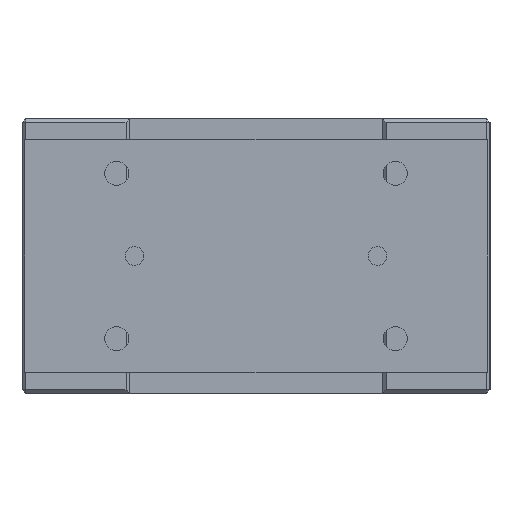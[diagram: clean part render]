
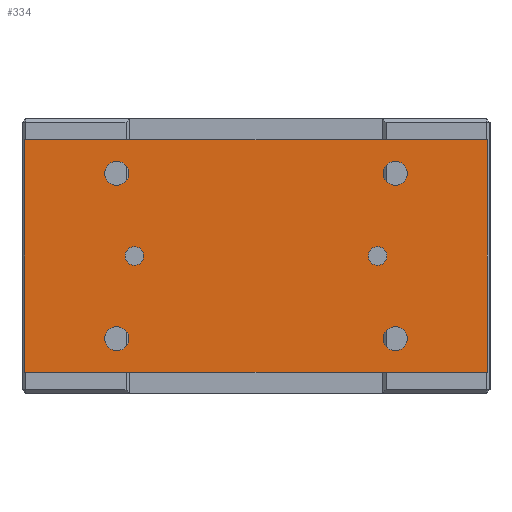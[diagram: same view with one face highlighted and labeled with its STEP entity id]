
A CAD part, left-side view. The second image highlights one B-rep face of the part: STEP entity #334.
In plain terms, the highlighted planar face has unit normal (-1, 0, 0).
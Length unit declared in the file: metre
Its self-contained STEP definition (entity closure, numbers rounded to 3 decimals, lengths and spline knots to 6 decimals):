
#334 = ADVANCED_FACE( '', ( #878, #879, #880, #881, #882, #883, #884 ), #885, .T. );
#878 = FACE_BOUND( '', #1772, .T. );
#879 = FACE_BOUND( '', #1773, .T. );
#880 = FACE_BOUND( '', #1774, .T. );
#881 = FACE_BOUND( '', #1775, .T. );
#882 = FACE_BOUND( '', #1776, .T. );
#883 = FACE_BOUND( '', #1777, .T. );
#884 = FACE_OUTER_BOUND( '', #1778, .T. );
#885 = PLANE( '', #1779 );
#1772 = EDGE_LOOP( '', ( #2775 ) );
#1773 = EDGE_LOOP( '', ( #2776 ) );
#1774 = EDGE_LOOP( '', ( #2777 ) );
#1775 = EDGE_LOOP( '', ( #2778 ) );
#1776 = EDGE_LOOP( '', ( #2779 ) );
#1777 = EDGE_LOOP( '', ( #2780 ) );
#1778 = EDGE_LOOP( '', ( #2781, #2782, #2783, #2784 ) );
#1779 = AXIS2_PLACEMENT_3D( '', #2785, #2786, #2787 );
#2775 = ORIENTED_EDGE( '', *, *, #4426, .F. );
#2776 = ORIENTED_EDGE( '', *, *, #4427, .T. );
#2777 = ORIENTED_EDGE( '', *, *, #4428, .F. );
#2778 = ORIENTED_EDGE( '', *, *, #4429, .F. );
#2779 = ORIENTED_EDGE( '', *, *, #4430, .F. );
#2780 = ORIENTED_EDGE( '', *, *, #4431, .F. );
#2781 = ORIENTED_EDGE( '', *, *, #4432, .T. );
#2782 = ORIENTED_EDGE( '', *, *, #4433, .T. );
#2783 = ORIENTED_EDGE( '', *, *, #4434, .T. );
#2784 = ORIENTED_EDGE( '', *, *, #4435, .T. );
#2785 = CARTESIAN_POINT( '', ( -0.143, -0.1245, -0.0115 ) );
#2786 = DIRECTION( '', ( -1., 0., 0. ) );
#2787 = DIRECTION( '', ( 0., 0., 1. ) );
#4426 = EDGE_CURVE( '', #5160, #5160, #5161, .T. );
#4427 = EDGE_CURVE( '', #5162, #5162, #5163, .T. );
#4428 = EDGE_CURVE( '', #5164, #5164, #5165, .T. );
#4429 = EDGE_CURVE( '', #5166, #5166, #5167, .T. );
#4430 = EDGE_CURVE( '', #5168, #5168, #5169, .T. );
#4431 = EDGE_CURVE( '', #5170, #5170, #5171, .T. );
#4432 = EDGE_CURVE( '', #5172, #5173, #5174, .T. );
#4433 = EDGE_CURVE( '', #5173, #5175, #5176, .T. );
#4434 = EDGE_CURVE( '', #5175, #5177, #5178, .T. );
#4435 = EDGE_CURVE( '', #5177, #5172, #5179, .T. );
#5160 = VERTEX_POINT( '', #6193 );
#5161 = CIRCLE( '', #6194, 0.005 );
#5162 = VERTEX_POINT( '', #6195 );
#5163 = CIRCLE( '', #6196, 0.005 );
#5164 = VERTEX_POINT( '', #6197 );
#5165 = CIRCLE( '', #6198, 0.0065 );
#5166 = VERTEX_POINT( '', #6199 );
#5167 = CIRCLE( '', #6200, 0.0065 );
#5168 = VERTEX_POINT( '', #6201 );
#5169 = CIRCLE( '', #6202, 0.0065 );
#5170 = VERTEX_POINT( '', #6203 );
#5171 = CIRCLE( '', #6204, 0.0065 );
#5172 = VERTEX_POINT( '', #6205 );
#5173 = VERTEX_POINT( '', #6206 );
#5174 = LINE( '', #6207, #6208 );
#5175 = VERTEX_POINT( '', #6209 );
#5176 = LINE( '', #6210, #6211 );
#5177 = VERTEX_POINT( '', #6212 );
#5178 = LINE( '', #6213, #6214 );
#5179 = LINE( '', #6215, #6216 );
#6193 = CARTESIAN_POINT( '', ( -0.143, -0.0705, -0.074 ) );
#6194 = AXIS2_PLACEMENT_3D( '', #7461, #7462, #7463 );
#6195 = CARTESIAN_POINT( '', ( -0.143, 0.0705, -0.074 ) );
#6196 = AXIS2_PLACEMENT_3D( '', #7464, #7465, #7466 );
#6197 = CARTESIAN_POINT( '', ( -0.143, -0.075, -0.112 ) );
#6198 = AXIS2_PLACEMENT_3D( '', #7467, #7468, #7469 );
#6199 = CARTESIAN_POINT( '', ( -0.143, 0.075, -0.112 ) );
#6200 = AXIS2_PLACEMENT_3D( '', #7470, #7471, #7472 );
#6201 = CARTESIAN_POINT( '', ( -0.143, -0.075, -0.023 ) );
#6202 = AXIS2_PLACEMENT_3D( '', #7473, #7474, #7475 );
#6203 = CARTESIAN_POINT( '', ( -0.143, 0.075, -0.023 ) );
#6204 = AXIS2_PLACEMENT_3D( '', #7476, #7477, #7478 );
#6205 = CARTESIAN_POINT( '', ( -0.143, -0.1245, -0.1365 ) );
#6206 = CARTESIAN_POINT( '', ( -0.143, -0.1245, -0.0115 ) );
#6207 = CARTESIAN_POINT( '', ( -0.143, -0.1245, -0.1365 ) );
#6208 = VECTOR( '', #7479, 1. );
#6209 = CARTESIAN_POINT( '', ( -0.143, 0.1245, -0.0115 ) );
#6210 = CARTESIAN_POINT( '', ( -0.143, -0.1245, -0.0115 ) );
#6211 = VECTOR( '', #7480, 1. );
#6212 = CARTESIAN_POINT( '', ( -0.143, 0.1245, -0.1365 ) );
#6213 = CARTESIAN_POINT( '', ( -0.143, 0.1245, -0.0115 ) );
#6214 = VECTOR( '', #7481, 1. );
#6215 = CARTESIAN_POINT( '', ( -0.143, 0.1245, -0.1365 ) );
#6216 = VECTOR( '', #7482, 1. );
#7461 = CARTESIAN_POINT( '', ( -0.143, -0.0655, -0.074 ) );
#7462 = DIRECTION( '', ( -1., 0., 0. ) );
#7463 = DIRECTION( '', ( 0., -1., 0. ) );
#7464 = CARTESIAN_POINT( '', ( -0.143, 0.0655, -0.074 ) );
#7465 = DIRECTION( '', ( 1., 0., 0. ) );
#7466 = DIRECTION( '', ( 0., 1., 0. ) );
#7467 = CARTESIAN_POINT( '', ( -0.143, -0.075, -0.1185 ) );
#7468 = DIRECTION( '', ( -1., 0., 0. ) );
#7469 = DIRECTION( '', ( 0., 0., 1. ) );
#7470 = CARTESIAN_POINT( '', ( -0.143, 0.075, -0.1185 ) );
#7471 = DIRECTION( '', ( -1., 0., 0. ) );
#7472 = DIRECTION( '', ( 0., 0., 1. ) );
#7473 = CARTESIAN_POINT( '', ( -0.143, -0.075, -0.0295 ) );
#7474 = DIRECTION( '', ( -1., 0., 0. ) );
#7475 = DIRECTION( '', ( 0., 0., 1. ) );
#7476 = CARTESIAN_POINT( '', ( -0.143, 0.075, -0.0295 ) );
#7477 = DIRECTION( '', ( -1., 0., 0. ) );
#7478 = DIRECTION( '', ( 0., 0., 1. ) );
#7479 = DIRECTION( '', ( 0., 0., 1. ) );
#7480 = DIRECTION( '', ( 0., 1., 0. ) );
#7481 = DIRECTION( '', ( 0., 0., -1. ) );
#7482 = DIRECTION( '', ( 0., -1., 0. ) );
